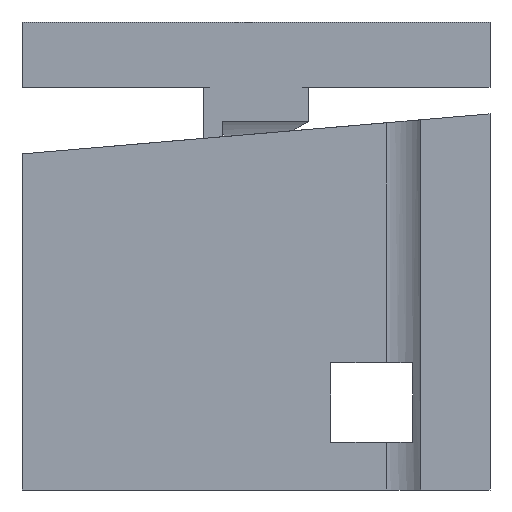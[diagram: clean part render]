
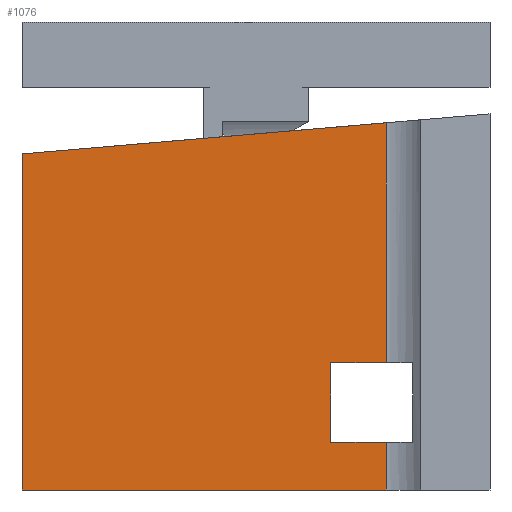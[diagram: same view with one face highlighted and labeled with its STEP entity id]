
A CAD part, left-side view. The second image highlights one B-rep face of the part: STEP entity #1076.
In plain terms, the highlighted planar face has unit normal (-1, 0, 0).
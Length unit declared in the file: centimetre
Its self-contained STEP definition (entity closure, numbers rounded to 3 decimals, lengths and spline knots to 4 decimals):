
#16 = ORIENTED_EDGE ( 'NONE', *, *, #896, .T. ) ;
#49 = VERTEX_POINT ( 'NONE', #816 ) ;
#86 = VERTEX_POINT ( 'NONE', #722 ) ;
#94 = DIRECTION ( 'NONE',  ( 0., 0., -1. ) ) ;
#98 = VECTOR ( 'NONE', #636, 100. ) ;
#105 = CARTESIAN_POINT ( 'NONE',  ( 0., 1000., 0. ) ) ;
#135 = DIRECTION ( 'NONE',  ( 0., 0., 1. ) ) ;
#137 = DIRECTION ( 'NONE',  ( 0., -0.996, 0.085 ) ) ;
#165 = ORIENTED_EDGE ( 'NONE', *, *, #1117, .T. ) ;
#166 = CARTESIAN_POINT ( 'NONE',  ( 0., 1000., 718.2226 ) ) ;
#212 = VERTEX_POINT ( 'NONE', #166 ) ;
#243 = CARTESIAN_POINT ( 'NONE',  ( 0., 340.4791, 101.6577 ) ) ;
#285 = CARTESIAN_POINT ( 'NONE',  ( 0., 340.4791, 271.9568 ) ) ;
#304 = ORIENTED_EDGE ( 'NONE', *, *, #361, .T. ) ;
#305 = VECTOR ( 'NONE', #307, 100. ) ;
#307 = DIRECTION ( 'NONE',  ( 0., -1., 0. ) ) ;
#330 = CARTESIAN_POINT ( 'NONE',  ( 0., 1000., 1000. ) ) ;
#332 = VERTEX_POINT ( 'NONE', #644 ) ;
#333 = CARTESIAN_POINT ( 'NONE',  ( 0., 1000., 0. ) ) ;
#353 = ORIENTED_EDGE ( 'NONE', *, *, #1032, .F. ) ;
#361 = EDGE_CURVE ( 'NONE', #212, #1212, #920, .T. ) ;
#363 = LINE ( 'NONE', #243, #1014 ) ;
#384 = FACE_OUTER_BOUND ( 'NONE', #1201, .T. ) ;
#395 = VERTEX_POINT ( 'NONE', #1138 ) ;
#409 = DIRECTION ( 'NONE',  ( 0., 0., -1. ) ) ;
#415 = LINE ( 'NONE', #1240, #305 ) ;
#423 = CARTESIAN_POINT ( 'NONE',  ( 0., 221.2909, 784.7164 ) ) ;
#467 = CARTESIAN_POINT ( 'NONE',  ( 0., 221.2909, 1000. ) ) ;
#505 = EDGE_CURVE ( 'NONE', #49, #597, #363, .T. ) ;
#515 = CARTESIAN_POINT ( 'NONE',  ( 0., 1000., 718.2226 ) ) ;
#523 = CARTESIAN_POINT ( 'NONE',  ( 0., 165.1135, 101.6577 ) ) ;
#542 = ORIENTED_EDGE ( 'NONE', *, *, #505, .T. ) ;
#549 = AXIS2_PLACEMENT_3D ( 'NONE', #1269, #785, #409 ) ;
#597 = VERTEX_POINT ( 'NONE', #285 ) ;
#636 = DIRECTION ( 'NONE',  ( 0., 1., 0. ) ) ;
#644 = CARTESIAN_POINT ( 'NONE',  ( 0., 221.2909, 101.6577 ) ) ;
#693 = ORIENTED_EDGE ( 'NONE', *, *, #1288, .F. ) ;
#722 = CARTESIAN_POINT ( 'NONE',  ( 0., 221.2909, 271.9568 ) ) ;
#785 = DIRECTION ( 'NONE',  ( 1., 0., 0. ) ) ;
#793 = CARTESIAN_POINT ( 'NONE',  ( 0., 221.2909, 1000. ) ) ;
#816 = CARTESIAN_POINT ( 'NONE',  ( 0., 340.4791, 101.6577 ) ) ;
#896 = EDGE_CURVE ( 'NONE', #1212, #395, #1184, .T. ) ;
#897 = VECTOR ( 'NONE', #94, 100. ) ;
#900 = ORIENTED_EDGE ( 'NONE', *, *, #981, .F. ) ;
#920 = LINE ( 'NONE', #330, #1488 ) ;
#981 = EDGE_CURVE ( 'NONE', #1153, #86, #1293, .T. ) ;
#985 = LINE ( 'NONE', #515, #1111 ) ;
#1014 = VECTOR ( 'NONE', #135, 100. ) ;
#1032 = EDGE_CURVE ( 'NONE', #212, #1153, #985, .T. ) ;
#1061 = VECTOR ( 'NONE', #1073, 100. ) ;
#1073 = DIRECTION ( 'NONE',  ( 0., -1., 0. ) ) ;
#1076 = ADVANCED_FACE ( 'NONE', ( #384 ), #1346, .F. ) ;
#1093 = VECTOR ( 'NONE', #1281, 100. ) ;
#1111 = VECTOR ( 'NONE', #137, 100. ) ;
#1117 = EDGE_CURVE ( 'NONE', #332, #49, #1146, .T. ) ;
#1138 = CARTESIAN_POINT ( 'NONE',  ( 0., 221.2909, 0. ) ) ;
#1146 = LINE ( 'NONE', #523, #98 ) ;
#1147 = DIRECTION ( 'NONE',  ( 0., 0., -1. ) ) ;
#1153 = VERTEX_POINT ( 'NONE', #423 ) ;
#1184 = LINE ( 'NONE', #105, #1061 ) ;
#1201 = EDGE_LOOP ( 'NONE', ( #693, #165, #542, #1239, #900, #353, #304, #16 ) ) ;
#1212 = VERTEX_POINT ( 'NONE', #333 ) ;
#1239 = ORIENTED_EDGE ( 'NONE', *, *, #1472, .T. ) ;
#1240 = CARTESIAN_POINT ( 'NONE',  ( 0., 165.1135, 271.9568 ) ) ;
#1269 = CARTESIAN_POINT ( 'NONE',  ( 0., 1000., 1000. ) ) ;
#1281 = DIRECTION ( 'NONE',  ( 0., 0., -1. ) ) ;
#1288 = EDGE_CURVE ( 'NONE', #332, #395, #1402, .T. ) ;
#1293 = LINE ( 'NONE', #467, #897 ) ;
#1346 = PLANE ( 'NONE',  #549 ) ;
#1402 = LINE ( 'NONE', #793, #1093 ) ;
#1472 = EDGE_CURVE ( 'NONE', #597, #86, #415, .T. ) ;
#1488 = VECTOR ( 'NONE', #1147, 100. ) ;
